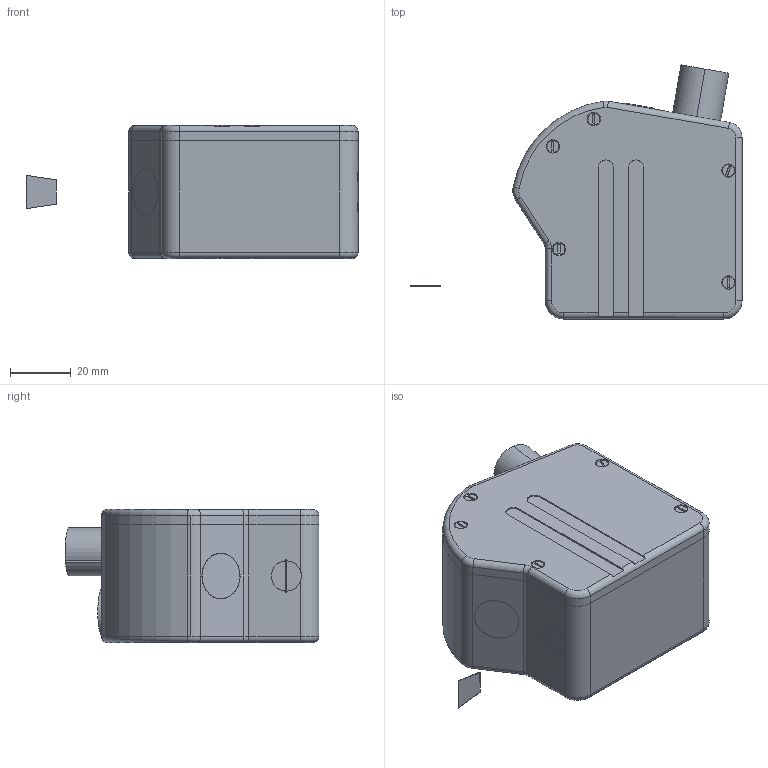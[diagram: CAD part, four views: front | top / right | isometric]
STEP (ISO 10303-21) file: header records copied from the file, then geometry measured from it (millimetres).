
FILE_DESCRIPTION (( 'STEP AP214' ), '1' );
FILE_NAME ('ÐÔ 627.30_10.000_ÑÁ Ñêàíåð 10 ìì äëÿ ñàéòà.STEP', '2019-07-02T09:29:52', ( 'test' ), ( 'Ref' ), 'SwSTEP 2.0', 'SolidWorks 2015', '' );
FILE_SCHEMA (( 'AUTOMOTIVE_DESIGN' ));
Length unit declared in the file: millimetre
Products named in the file (27): Êîðïóñ ìèíè ñêàíåðà 10 ìì âåðñèÿ 2; RF627_80_017(1); Ðåçüáîâàÿ âòóëêà Ì6 ìèíè ñêàíåð; Submodel-Binder_09-0428-30-08_3952738181_part_Binder_09-0428-30-08_1; Êðûøêà ìèíè ñêàíåðà 10 ìì âåðñèÿ 2; Submodel-B3B-ZR_2562650222_part_B3B-ZR_1; Submodel-noModelForPart_Binder_09-0428-30-08_3952738181_1; DesignRootModel_1; Submodel-noModelForPart_FH12-32S-0.5SH_lpar_55_rpar__2555814880_1; placementOutline_1_4; 性 625.75_ 袜觌彘赅_觏铒觇; ÐÔ 627.30_10.000_ÑÁ Ñêàíåð 10 ìì äëÿ ñàéòà; Submodel-noModelForPart_B3B-ZR_2562650222_1; uid__27_1; placementOutline_1_5; placementOutline_1_3; Submodel-FH12-32S-0.5SH_lpar_55_rpar__2555814880_part_FH12-32S-0.5SH_1; Submodel-1553488_341613795_part_PHOENIX_1553488_1; placementOutline_1_2; Ñòåêëî ä10; Submodel-FH12-06S-1SH_lpar_55_rpar__1599555785_part_FH12-06S-1SH_1; Submodel-noModelForPart_1553488_341613795_1; Ïîëå âèäåíèÿ 10 ìì; placementOutline_1; Âèíò_Ì2õ10; Submodel-noModelForPart_FH12-06S-1SH_lpar_55_rpar__1599555785_1; Ñòåêëî ä15
Assembly tree (38 placements, depth 6):
  ÐÔ 627.30_10.000_ÑÁ Ñêàíåð 10 ìì äëÿ ñàéòà
    RF627_80_017(1)
      DesignRootModel_1
        uid__27_1
        Submodel-1553488_341613795_part_PHOENIX_1553488_1
          Submodel-noModelForPart_1553488_341613795_1
            placementOutline_1
        Submodel-Binder_09-0428-30-08_3952738181_part_Binder_09-0428-30-08_1
          Submodel-noModelForPart_Binder_09-0428-30-08_3952738181_1
            placementOutline_1_2
        Submodel-FH12-06S-1SH_lpar_55_rpar__1599555785_part_FH12-06S-1SH_1  x2
          Submodel-noModelForPart_FH12-06S-1SH_lpar_55_rpar__1599555785_1
            placementOutline_1_3
        Submodel-FH12-32S-0.5SH_lpar_55_rpar__2555814880_part_FH12-32S-0.5SH_1
          Submodel-noModelForPart_FH12-32S-0.5SH_lpar_55_rpar__2555814880_1
            placementOutline_1_4
        Submodel-B3B-ZR_2562650222_part_B3B-ZR_1
          Submodel-noModelForPart_B3B-ZR_2562650222_1
            placementOutline_1_5
    性 625.75_ 袜觌彘赅_觏铒觇
    Âèíò_Ì2õ10  x9
    Êîðïóñ ìèíè ñêàíåðà 10 ìì âåðñèÿ 2
    Ðåçüáîâàÿ âòóëêà Ì6 ìèíè ñêàíåð  x4
    Êðûøêà ìèíè ñêàíåðà 10 ìì âåðñèÿ 2
    Ñòåêëî ä10
    Ñòåêëî ä15
    Ïîëå âèäåíèÿ 10 ìì
Bounding box: 109.74 x 83.93 x 44 mm (x, y, z)
Volume: 82102.6 mm3; surface area: 49903.2 mm2
Topology: 28 solids, 29 shells, 814 faces, 2113 edges, 1371 vertices
Faces by surface type: plane 422, cylinder 220, bspline 78, cone 76, torus 18
Entity records: 26430 total; most frequent: CARTESIAN_POINT 8015, ORIENTED_EDGE 3478, DIRECTION 3306, EDGE_CURVE 1739, VERTEX_POINT 1139, AXIS2_PLACEMENT_3D 1107, VECTOR 1092, LINE 1092
